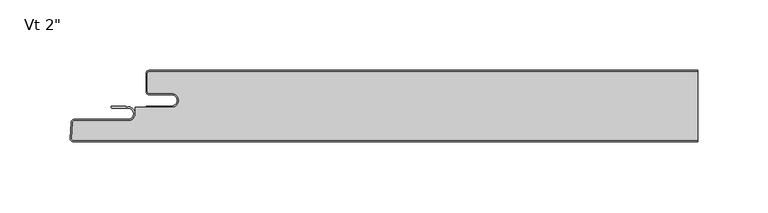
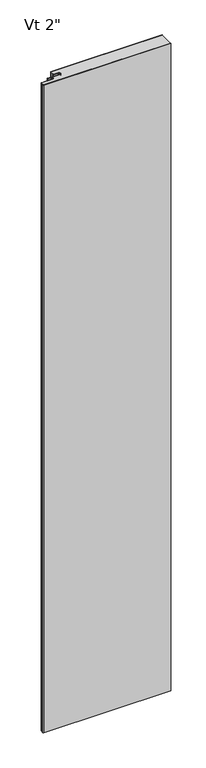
"""IFC4 building model written with IfcOpenShell, lengths in millimetres: plate geometry."""

from ifc_helpers import new_model, si_unit, point, frame_2d, origin, origin_with_axes, place, context, project, spatial, polyline, circle_curve, trimmed, segment, composite_curve, outline, extrude, source, transform, mapped, element, save


def plate_1998553f(model_context):
    return source(origin(), model_context, "Body", "SweptSolid", [
        extrude(outline(composite_curve([segment(polyline([(-193.4187498, -1.0), (196.6062498, -1.0), (196.6062498, -49.8), (-247.2656859, -49.8)]), True, "CONTINUOUS"), segment(trimmed(circle_curve(frame_2d((-247.2656859, -48.41875)), 1.38125), [point((-247.2656859, -49.8))], [point((-248.645043, -48.346461))], False, "CARTESIAN"), True, "CONTINUOUS"), segment(polyline([(-248.645043, -48.346461), (-248.0626615, -37.233961)]), True, "CONTINUOUS"), segment(trimmed(circle_curve(frame_2d((-246.6833045, -37.30625)), 1.38125), [point((-248.0626615, -37.233961))], [point((-246.6833045, -35.925))], False, "CARTESIAN"), True, "CONTINUOUS"), segment(polyline([(-246.6833045, -35.925), (-208.4999998, -35.925)]), True, "CONTINUOUS"), segment(trimmed(circle_curve(frame_2d((-208.4999998, -30.95625)), 4.96875), [point((-208.4999998, -35.925))], [point((-203.5312498, -30.95625))], True, "CARTESIAN"), True, "CONTINUOUS"), segment(polyline([(-203.5312498, -30.95625), (-203.5312498, -26.4), (-177.5437498, -26.4)]), True, "CONTINUOUS"), segment(trimmed(circle_curve(frame_2d((-177.5437498, -21.43125)), 4.96875), [point((-177.5437498, -26.4))], [point((-177.5437498, -16.4625))], True, "CARTESIAN"), True, "CONTINUOUS"), segment(polyline([(-177.5437498, -16.4625), (-193.4187498, -16.4625)]), True, "CONTINUOUS"), segment(trimmed(circle_curve(frame_2d((-193.4187498, -15.08125)), 1.38125), [point((-193.4187498, -16.4625))], [point((-194.7999998, -15.08125))], False, "CARTESIAN"), True, "CONTINUOUS"), segment(polyline([(-194.7999998, -15.08125), (-194.7999998, -2.38125)]), True, "CONTINUOUS"), segment(trimmed(circle_curve(frame_2d((-193.4187498, -2.38125)), 1.38125), [point((-194.7999998, -2.38125))], [point((-193.4187498, -1.0))], False, "CARTESIAN"), True, "CONTINUOUS")], self_intersect=False)), origin_with_axes(), (0.0, 0.0, 1.0), 2400.0),
        extrude(outline(composite_curve([segment(polyline([(-195.7999998, -25.4), (-177.5437498, -25.4)]), True, "CONTINUOUS"), segment(trimmed(circle_curve(frame_2d((-177.5437498, -21.43125)), 3.96875), [point((-177.5437498, -25.4))], [point((-177.5437498, -17.4625))], True, "CARTESIAN"), True, "CONTINUOUS"), segment(polyline([(-177.5437498, -17.4625), (-193.4187498, -17.4625)]), True, "CONTINUOUS"), segment(trimmed(circle_curve(frame_2d((-193.4187498, -15.08125)), 2.38125), [point((-193.4187498, -17.4625))], [point((-195.7999998, -15.08125))], False, "CARTESIAN"), True, "CONTINUOUS"), segment(polyline([(-195.7999998, -15.08125), (-195.7999998, -2.38125)]), True, "CONTINUOUS"), segment(trimmed(circle_curve(frame_2d((-193.4187498, -2.38125)), 2.38125), [point((-195.7999998, -2.38125))], [point((-193.4187498, 0.0))], False, "CARTESIAN"), True, "CONTINUOUS"), segment(polyline([(-193.4187498, 0.0), (196.6062498, 0.0), (196.6062498, -1.0), (-193.4187498, -1.0)]), True, "CONTINUOUS"), segment(trimmed(circle_curve(frame_2d((-193.4187498, -2.38125)), 1.38125), [point((-193.4187498, -1.0))], [point((-194.7999998, -2.38125))], True, "CARTESIAN"), True, "CONTINUOUS"), segment(polyline([(-194.7999998, -2.38125), (-194.7999998, -15.08125)]), True, "CONTINUOUS"), segment(trimmed(circle_curve(frame_2d((-193.4187498, -15.08125)), 1.38125), [point((-194.7999998, -15.08125))], [point((-193.4187498, -16.4625))], True, "CARTESIAN"), True, "CONTINUOUS"), segment(polyline([(-193.4187498, -16.4625), (-177.5437498, -16.4625)]), True, "CONTINUOUS"), segment(trimmed(circle_curve(frame_2d((-177.5437498, -21.43125)), 4.96875), [point((-177.5437498, -16.4625))], [point((-177.5437498, -26.4))], False, "CARTESIAN"), True, "CONTINUOUS"), segment(polyline([(-177.5437498, -26.4), (-195.7999998, -26.4), (-195.7999998, -25.4)]), True, "CONTINUOUS")], self_intersect=False)), origin_with_axes(), (0.0, 0.0, 1.0), 2400.0),
        extrude(outline(composite_curve([segment(polyline([(-219.8252048, -25.4), (-210.1017673, -25.4), (-210.1017673, -26.19375), (-208.5142673, -25.9875)]), True, "CONTINUOUS"), segment(trimmed(circle_curve(frame_2d((-208.5142673, -30.95625)), 4.96875), [point((-208.5142673, -25.9875))], [point((-208.5142673, -35.925))], False, "CARTESIAN"), True, "CONTINUOUS"), segment(polyline([(-208.5142673, -35.925), (-246.6975719, -35.925)]), True, "CONTINUOUS"), segment(trimmed(circle_curve(frame_2d((-246.6975719, -37.30625)), 1.38125), [point((-246.6975719, -35.925))], [point((-248.076929, -37.233961))], True, "CARTESIAN"), True, "CONTINUOUS"), segment(polyline([(-248.076929, -37.233961), (-248.6593104, -48.346461)]), True, "CONTINUOUS"), segment(trimmed(circle_curve(frame_2d((-247.2799534, -48.41875)), 1.38125), [point((-248.6593104, -48.346461))], [point((-247.2799534, -49.8))], True, "CARTESIAN"), True, "CONTINUOUS"), segment(polyline([(-247.2799534, -49.8), (196.6062498, -49.8), (196.6062498, -50.8), (-247.2799534, -50.8)]), True, "CONTINUOUS"), segment(trimmed(circle_curve(frame_2d((-247.2799534, -48.41875)), 2.38125), [point((-247.2799534, -50.8))], [point((-249.6579399, -48.294125))], False, "CARTESIAN"), True, "CONTINUOUS"), segment(polyline([(-249.6579399, -48.294125), (-249.0755585, -37.181625)]), True, "CONTINUOUS"), segment(trimmed(circle_curve(frame_2d((-246.6975719, -37.30625)), 2.38125), [point((-249.0755585, -37.181625))], [point((-246.6975719, -34.925))], False, "CARTESIAN"), True, "CONTINUOUS"), segment(polyline([(-246.6975719, -34.925), (-208.5142673, -34.925)]), True, "CONTINUOUS"), segment(trimmed(circle_curve(frame_2d((-208.5142673, -30.95625)), 3.96875), [point((-208.5142673, -34.925))], [point((-208.5142673, -26.9875))], True, "CARTESIAN"), True, "CONTINUOUS"), segment(polyline([(-208.5142673, -26.9875), (-219.8252048, -26.9875)]), True, "CONTINUOUS"), segment(trimmed(circle_curve(frame_2d((-219.8252048, -26.19375)), 0.79375), [point((-219.8252048, -26.9875))], [point((-219.8252048, -25.4))], False, "CARTESIAN"), True, "CONTINUOUS")], self_intersect=False)), origin_with_axes(), (0.0, 0.0, 1.0), 2400.0),
    ])


if __name__ == "__main__":
    model = new_model("IFC4")
    model_context = context("Model", 3, world=origin())
    ifc_project = project(units=[si_unit("LENGTHUNIT", "METRE", prefix="MILLI")], contexts=[model_context])
    site = spatial("IfcSite", under=ifc_project)
    building = spatial("IfcBuilding", under=site)
    placement = place(None, origin())
    plate_shape = plate_1998553f(model_context)
    element("IfcPlate", 1, ObjectType="KIP-42-DWTR-R19-CP-Vt-F : Vt 2\"", at=placement, inside=building, context=model_context, shape_type="MappedRepresentation", body=[
        mapped(plate_shape, transform((0.0, 0.0, 0.0), x_axis=(1.0, 0.0, 0.0), y_axis=(0.0, 1.0, 0.0), z_axis=(0.0, 0.0, 1.0))),
    ])
    save(model, "model.ifc")
